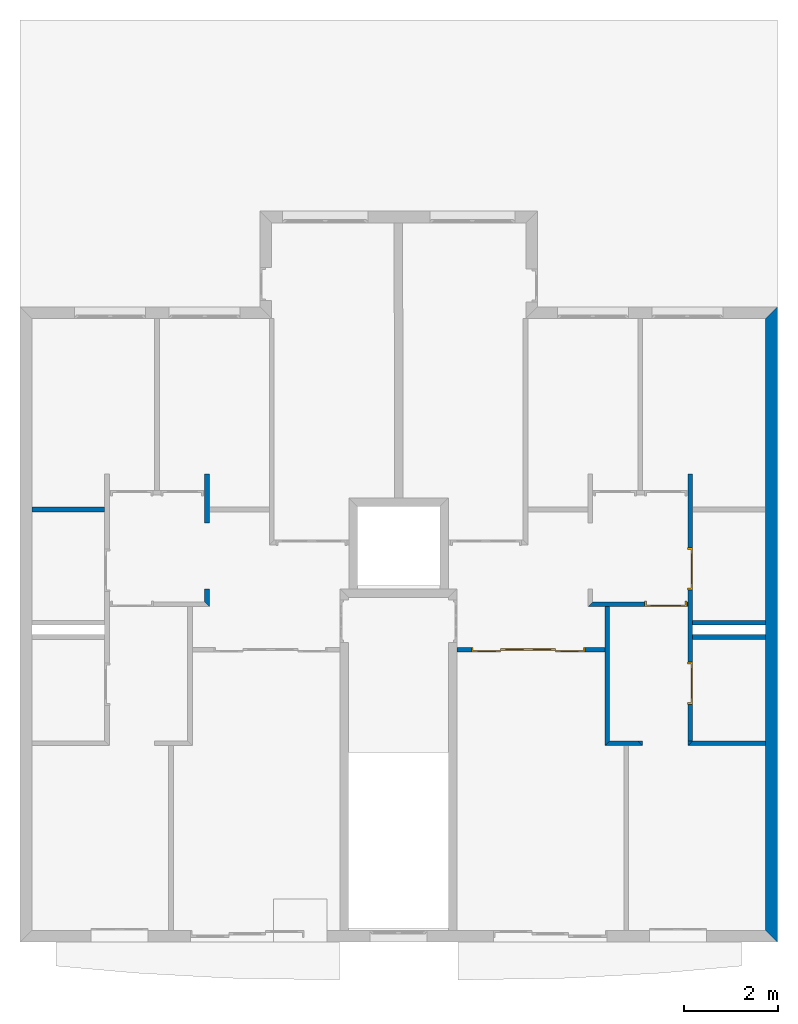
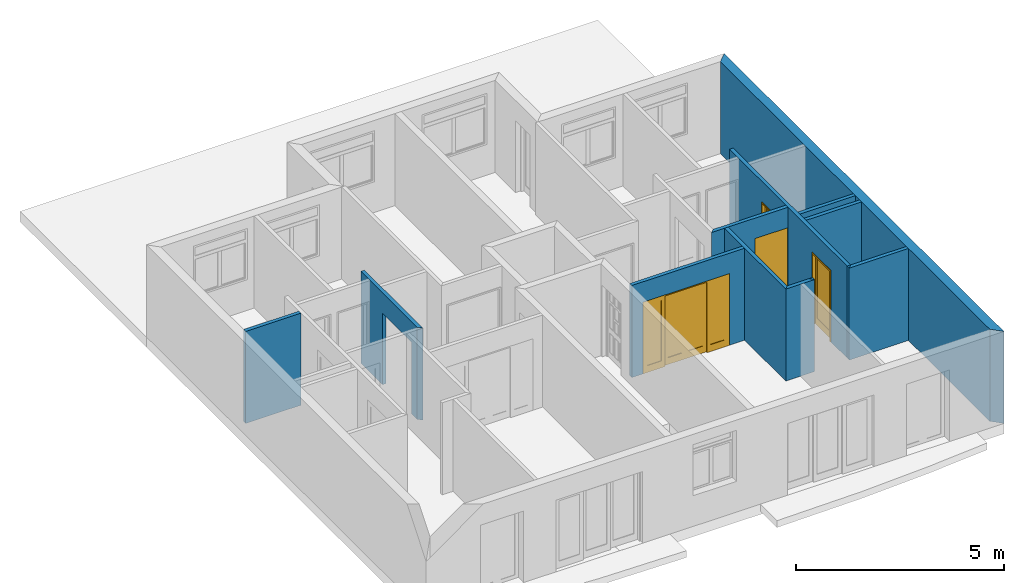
# One storey, part 8 of 12: 13 walls, 4 doors, 5 openings.
"""IFC2X3 building model written with IfcOpenShell, lengths in metres."""

import ifcopenshell
import ifcopenshell.guid

model = None  # the IFC model being written
_history = None  # IfcOwnerHistory: only IFC2X3 demands one
_inside = {}  # id of a spatial element -> (the spatial element, [elements in it])
_under = {}  # id of a project, library or spatial element -> (it, [spatial elements below it])
_declared = {}  # id of a project -> (the project, [libraries it declares])
_typed = {}  # id of a type object -> (the type object, [elements of that type])
_made_of = {}  # id of a material, layer set ... -> (it, [elements and type objects made of it])


def new_model(schema):
    """Start an empty IFC model of exactly this schema.

    Asked for "IFC4X3", IfcOpenShell would pick the latest addendum, in which some entities
    have other attributes; the version numbers below select the first issue.
    IFC2X3 requires an IfcOwnerHistory on every rooted entity: one is made here for all.
    """
    global model, _history
    if schema == "IFC4X3":
        model = ifcopenshell.file(schema_version=(4, 3, 0, 0))
    else:
        model = ifcopenshell.file(schema=schema)
    _inside.clear()
    _under.clear()
    _declared.clear()
    _typed.clear()
    _made_of.clear()
    _history = None
    if model.schema == "IFC2X3":
        org = make("IfcOrganization", Name="unknown")
        user = make(
            "IfcPersonAndOrganization",
            ThePerson=make("IfcPerson", FamilyName="unknown"),
            TheOrganization=org,
        )
        app = make(
            "IfcApplication",
            ApplicationDeveloper=org,
            Version="unknown",
            ApplicationFullName="unknown",
            ApplicationIdentifier="unknown",
        )
        _history = make(
            "IfcOwnerHistory",
            OwningUser=user,
            OwningApplication=app,
            ChangeAction="ADDED",
            CreationDate=0,
        )
    return model


def make(cls, **values):
    """One entity of the class cls with the attributes given. An attribute that is None is left unset."""
    return model.create_entity(
        cls, **{name: value for name, value in values.items() if value is not None}
    )


def entity(cls, *values):
    """Any entity or typed value of the class cls, its attributes in the order of the schema. None: left unset."""
    e = model.create_entity(cls)
    for i, value in enumerate(values):
        if value is not None:
            e[i] = value
    return e


def rooted(cls, **values):
    """An entity with a GlobalId (a new one), such as an element, a storey or a relation."""
    return make(cls, GlobalId=ifcopenshell.guid.new(), OwnerHistory=_history, **values)


def si_unit(unit_type, name, prefix=None):
    """IfcSIUnit, for example si_unit("LENGTHUNIT", "METRE", prefix="MILLI")."""
    return make("IfcSIUnit", UnitType=unit_type, Prefix=prefix, Name=name)


def converted_unit(unit_type, name, factor, base, dimensions=None, offset=None):
    """IfcConversionBasedUnit, such as the inch: factor (a typed value) times the base unit."""
    return make(
        "IfcConversionBasedUnit"
        if offset is None
        else "IfcConversionBasedUnitWithOffset",
        ConversionOffset=offset,
        Dimensions=None
        if dimensions is None
        else entity("IfcDimensionalExponents", *dimensions),
        UnitType=unit_type,
        Name=name,
        ConversionFactor=make(
            "IfcMeasureWithUnit", ValueComponent=factor, UnitComponent=base
        ),
    )


def assignment(units):
    """IfcUnitAssignment: the units of a project."""
    return None if units is None else make("IfcUnitAssignment", Units=units)


def point(xyz):
    """IfcCartesianPoint."""
    return None if xyz is None else make("IfcCartesianPoint", Coordinates=xyz)


def direction(xyz):
    """IfcDirection."""
    return None if xyz is None else make("IfcDirection", DirectionRatios=xyz)


def frame(location, z_axis=None, x_axis=None):
    """IfcAxis2Placement3D, a coordinate frame: its origin and axes. An axis left out is left unset."""
    return make(
        "IfcAxis2Placement3D",
        Location=point(location),
        Axis=direction(z_axis),
        RefDirection=direction(x_axis),
    )


def frame_2d(location, x_axis=None):
    """IfcAxis2Placement2D, a coordinate frame in the plane: its origin and x axis."""
    return make(
        "IfcAxis2Placement2D", Location=point(location), RefDirection=direction(x_axis)
    )


def origin_with_axes():
    """The frame at (0, 0, 0) with the z axis (0, 0, 1) and the x axis (1, 0, 0) written out."""
    return frame((0.0, 0.0, 0.0), z_axis=(0.0, 0.0, 1.0), x_axis=(1.0, 0.0, 0.0))


def place(relative_to, where):
    """IfcLocalPlacement: puts the frame where relative to a parent placement (None: the world)."""
    return make(
        "IfcLocalPlacement", PlacementRelTo=relative_to, RelativePlacement=where
    )


def context(
    kind, dimensions, precision=None, world=None, true_north=None, identifier=None
):
    """IfcGeometricRepresentationContext, for example the 3D "Model" context."""
    return make(
        "IfcGeometricRepresentationContext",
        ContextIdentifier=identifier,
        ContextType=kind,
        CoordinateSpaceDimension=dimensions,
        Precision=precision,
        WorldCoordinateSystem=world,
        TrueNorth=true_north,
    )


def project(units=None, contexts=None):
    """IfcProject with its units and contexts."""
    return rooted(
        "IfcProject",
        Name="project",
        RepresentationContexts=contexts,
        UnitsInContext=assignment(units),
    )


def spatial(cls, under=None, at=None, **own):
    """A site, building, storey or space (cls), placed at a placement, below another one or the project."""
    s = rooted(cls, ObjectPlacement=at, **own)
    if under is not None:
        _under.setdefault(under.id(), (under, []))[1].append(s)
    return s


def polyline(points):
    """IfcPolyline through the points."""
    return make("IfcPolyline", Points=[point(p) for p in points])


def profile(cls, at=None, kind="AREA", **sizes):
    """A parametric profile (cls). Its sizes go by their IFC names, for example OverallWidth=200.0."""
    return make(cls, ProfileType=kind, Position=at, **sizes)


def rectangle(**sizes):
    """IfcRectangleProfileDef."""
    return profile("IfcRectangleProfileDef", **sizes)


def outline(outer, holes=None, kind="AREA"):
    """IfcArbitraryClosedProfileDef: a profile drawn as a closed curve; with holes, ...WithVoids."""
    if holes is None:
        return make("IfcArbitraryClosedProfileDef", ProfileType=kind, OuterCurve=outer)
    return make(
        "IfcArbitraryProfileDefWithVoids",
        ProfileType=kind,
        OuterCurve=outer,
        InnerCurves=holes,
    )


def extrude(swept, where, along, depth):
    """IfcExtrudedAreaSolid: the profile swept, set in the frame where, extruded along a direction by depth."""
    return make(
        "IfcExtrudedAreaSolid",
        SweptArea=swept,
        Position=where,
        ExtrudedDirection=direction(along),
        Depth=depth,
    )


def faces_of(points, faces, orient=None, outer=None):
    """IfcFace entities. A face is a list of loops; a loop is a list of indices into points, from 0.

    orient and outer hold one flag for each loop. By default every Orientation is true, the
    first loop of a face is its IfcFaceOuterBound and the others are IfcFaceBound.
    """
    made = []
    for i, loops in enumerate(faces):
        bounds = []
        for j, loop in enumerate(loops):
            is_outer = j == 0 if outer is None else outer[i][j]
            bounds.append(
                make(
                    "IfcFaceOuterBound" if is_outer else "IfcFaceBound",
                    Bound=make("IfcPolyLoop", Polygon=[points[k] for k in loop]),
                    Orientation=True if orient is None else orient[i][j],
                )
            )
        made.append(make("IfcFace", Bounds=bounds))
    return made


def faceted_brep(points, faces, orient=None, outer=None, voids=None):
    """IfcFacetedBrep: a solid bounded by flat faces; with voids (closed shells), ...WithVoids."""
    shared = [point(p) for p in points]
    hull = make("IfcClosedShell", CfsFaces=faces_of(shared, faces, orient, outer))
    if voids is None:
        return make("IfcFacetedBrep", Outer=hull)
    return make(
        "IfcFacetedBrepWithVoids",
        Outer=hull,
        Voids=[
            make(cls, CfsFaces=faces_of(shared, fs, o, b)) for cls, fs, o, b in voids
        ],
    )


def shape(context_of_items, identifier, shape_type, items):
    """IfcShapeRepresentation: the items that make up one representation, for example the "Body"."""
    return make(
        "IfcShapeRepresentation",
        ContextOfItems=context_of_items,
        RepresentationIdentifier=identifier,
        RepresentationType=shape_type,
        Items=items,
    )


def source(mapping_origin, context_of_items, identifier, shape_type, items):
    """IfcRepresentationMap: a shape defined once, which mapped items show again and again."""
    return make(
        "IfcRepresentationMap",
        MappingOrigin=mapping_origin,
        MappedRepresentation=shape(context_of_items, identifier, shape_type, items),
    )


def transform(
    local_origin,
    x_axis=None,
    y_axis=None,
    z_axis=None,
    scale=None,
    scale2=None,
    scale3=None,
    uniform=True,
):
    """IfcCartesianTransformationOperator3D, or its non-uniform kind. x_axis, y_axis, z_axis: its Axis1, 2, 3."""
    if uniform:
        return make(
            "IfcCartesianTransformationOperator3D",
            Axis1=direction(x_axis),
            Axis2=direction(y_axis),
            LocalOrigin=point(local_origin),
            Scale=scale,
            Axis3=direction(z_axis),
        )
    return make(
        "IfcCartesianTransformationOperator3DnonUniform",
        Axis1=direction(x_axis),
        Axis2=direction(y_axis),
        LocalOrigin=point(local_origin),
        Scale=scale,
        Axis3=direction(z_axis),
        Scale2=scale2,
        Scale3=scale3,
    )


def mapped(mapping_source, mapping_target):
    """IfcMappedItem: shows the shape of a source again, moved by a transform."""
    return make(
        "IfcMappedItem", MappingSource=mapping_source, MappingTarget=mapping_target
    )


def material(Name=None, Category=None):
    """IfcMaterial."""
    return make("IfcMaterial", Name=Name, Category=Category)


def layer(
    of_material, thickness, ventilated=None, Name=None, Category=None, Priority=None
):
    """IfcMaterialLayer: one layer of a wall or slab, of a material (None: an air gap)."""
    return make(
        "IfcMaterialLayer",
        Material=of_material,
        LayerThickness=thickness,
        IsVentilated=ventilated,
        Name=Name,
        Category=Category,
        Priority=Priority,
    )


def layer_set(layers, Name=None):
    """IfcMaterialLayerSet."""
    return make("IfcMaterialLayerSet", MaterialLayers=layers, LayerSetName=Name)


def layer_usage(for_layer_set, set_direction, sense, offset, extent=None):
    """IfcMaterialLayerSetUsage: how a layer set lies in its element."""
    return make(
        "IfcMaterialLayerSetUsage",
        ForLayerSet=for_layer_set,
        LayerSetDirection=set_direction,
        DirectionSense=sense,
        OffsetFromReferenceLine=offset,
        ReferenceExtent=extent,
    )


def made_of(thing, what):
    """Note that an element or type object is made of a material, layer set ...; save() writes the relation."""
    if what is not None:
        _made_of.setdefault(what.id(), (what, []))[1].append(thing)
    return thing


def type_object(cls, material=None, **own):
    """A type object (cls), such as IfcWallType, which elements share."""
    return made_of(rooted(cls, **own), material)


def element(
    cls,
    number,
    at=None,
    inside=None,
    cuts=None,
    type_object=None,
    material=None,
    context=None,
    identifier="Body",
    shape_type=None,
    held_by="IfcProductDefinitionShape",
    body=None,
    shapes=None,
    **own,
):
    """One element of the class cls, such as IfcWall. Its Tag is "e" and its number.

    at: its placement. inside: the storey or other place that contains it. cuts: it is an
    opening in that element (IfcRelVoidsElement). A single representation is given by context,
    identifier, shape_type and body (its items); several are given by shapes. held_by: the class
    of the entity that holds the representations. save() writes the other relations.
    """
    e = rooted(cls, Tag="e%d" % number, ObjectPlacement=at, **own)
    if body is not None:
        shapes = [shape(context, identifier, shape_type, body)]
    if shapes is not None:
        e.Representation = make(held_by, Representations=shapes)
    if inside is not None:
        _inside.setdefault(inside.id(), (inside, []))[1].append(e)
    if cuts is not None:
        rooted(
            "IfcRelVoidsElement", RelatingBuildingElement=cuts, RelatedOpeningElement=e
        )
    if type_object is not None:
        _typed.setdefault(type_object.id(), (type_object, []))[1].append(e)
    return made_of(e, material)


def fill(opening, filler):
    """IfcRelFillsElement: the door or window that sits in an opening."""
    return rooted(
        "IfcRelFillsElement",
        RelatingOpeningElement=opening,
        RelatedBuildingElement=filler,
    )


def aggregate(whole, parts):
    """IfcRelAggregates: a whole, such as a stair, and the parts it consists of."""
    return rooted("IfcRelAggregates", RelatingObject=whole, RelatedObjects=parts)


def save(model, path):
    """Write the relations noted so far, then the file.

    IfcRelAggregates (storeys below a building ...), IfcRelContainedInSpatialStructure (elements
    in a storey), IfcRelDefinesByType, IfcRelAssociatesMaterial and IfcRelDeclares: one each for
    every whole, place, type object, material and project.
    """
    for whole, parts in _under.values():
        aggregate(whole, parts)
    for where, things in _inside.values():
        rooted(
            "IfcRelContainedInSpatialStructure",
            RelatedElements=things,
            RelatingStructure=where,
        )
    for kind, things in _typed.values():
        rooted("IfcRelDefinesByType", RelatedObjects=things, RelatingType=kind)
    for what, things in _made_of.values():
        rooted("IfcRelAssociatesMaterial", RelatedObjects=things, RelatingMaterial=what)
    for by, libraries in _declared.values():
        rooted("IfcRelDeclares", RelatingContext=by, RelatedDefinitions=libraries)
    model.write(path)


model = new_model("IFC2X3")

# Units and contexts
context_of_model = context(None, 3, precision=1e-05, world=origin_with_axes(), true_north=direction((6.123234e-17, 1.0)))
plan_context = context("Plan", 3, precision=1e-05, world=origin_with_axes(), true_north=direction((6.123234e-17, 1.0)))
model_context = context("Model", 3, precision=1e-05, world=origin_with_axes(), true_north=direction((6.123234e-17, 1.0)))
ifc_project = project(units=[si_unit("LENGTHUNIT", "METRE"), si_unit("AREAUNIT", "SQUARE_METRE"), si_unit("VOLUMEUNIT", "CUBIC_METRE"), converted_unit("PLANEANGLEUNIT", "DEGREE", entity("IfcPlaneAngleMeasure", 0.017453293), si_unit("PLANEANGLEUNIT", "RADIAN"), dimensions=[0, 0, 0, 0, 0, 0, 0]), si_unit("SOLIDANGLEUNIT", "STERADIAN"), si_unit("MASSUNIT", "GRAM"), si_unit("TIMEUNIT", "SECOND"), si_unit("THERMODYNAMICTEMPERATUREUNIT", "DEGREE_CELSIUS"), si_unit("LUMINOUSINTENSITYUNIT", "LUMEN")], contexts=[context_of_model, plan_context, model_context])

# Site, building, storey
site_placement = place(None, origin_with_axes())
site = spatial("IfcSite", under=ifc_project, at=site_placement, Name="Por defecto Sitio", CompositionType="ELEMENT")
building_placement = place(site_placement, origin_with_axes())
building = spatial("IfcBuilding", under=site, at=building_placement, Name="Por defecto Edificio", CompositionType="ELEMENT")
storey_placement = place(building_placement, frame((0.0, 0.0, 4.2), z_axis=(0.0, 0.0, 1.0), x_axis=(1.0, 0.0, 0.0)))
storey = spatial("IfcBuildingStorey", under=building, at=storey_placement, Name="Primera", CompositionType="ELEMENT", Elevation=4.2)

# Wall
ifc_material_1 = material(Name="Doble 1:4")
ifc_layer_1 = layer(ifc_material_1, 0.25, ventilated="UNKNOWN")
ifc_layer_set_1 = layer_set([ifc_layer_1], Name="Doble 1:4")
ifc_layer_usage_1 = layer_usage(ifc_layer_set_1, "AXIS2", "NEGATIVE", 0.0)
wall_type_1 = type_object("IfcWallType", Name="Doble 1:4", PredefinedType="NOTDEFINED")
wall_1_placement = place(storey_placement, frame((16.03417, 13.449173, 0.0), z_axis=(0.0, 0.0, 1.0), x_axis=(-2.1396841e-14, -1.0, 0.0)))
element("IfcWallStandardCase", 1, at=wall_1_placement, inside=storey, type_object=wall_type_1, material=ifc_layer_usage_1, Name="Muro-017", context=context_of_model, shape_type="SweptSolid", body=[
    extrude(outline(polyline([(0.25, -0.25), (13.199173, -0.25), (13.449173, 0.0), (0.0, 0.0), (0.25, -0.25)])), origin_with_axes(), (0.0, 0.0, 1.0), 2.7),
])

# Wall, opening
ifc_material_2 = material(Name="Ladrillo común")
ifc_layer_2 = layer(ifc_material_2, 0.1, ventilated="UNKNOWN")
ifc_layer_set_2 = layer_set([ifc_layer_2], Name="Ladrillo común")
ifc_layer_usage_2 = layer_usage(ifc_layer_set_2, "AXIS2", "NEGATIVE", 0.0)
wall_type_2 = type_object("IfcWallType", Name="Ladrillo común", PredefinedType="NOTDEFINED")
wall_2_placement = place(storey_placement, frame((3.9101652, 7.2022014, 0.0), z_axis=(0.0, 0.0, 1.0), x_axis=(0.0, 1.0, 0.0)))
wall_2 = element("IfcWallStandardCase", 2, at=wall_2_placement, inside=storey, type_object=wall_type_2, material=ifc_layer_usage_2, Name="Muro-025", context=context_of_model, shape_type="SweptSolid", body=[
    extrude(outline(polyline([(-0.1, -0.1), (2.7087182, -0.1), (2.7087182, 4.4408921e-16), (0.0, 4.4408921e-16), (-0.1, -0.1)])), origin_with_axes(), (0.0, 0.0, 1.0), 2.7),
])
opening_1_placement = place(wall_2_placement, frame((0.96876743, -0.1, 0.0), z_axis=(0.0, 0.0, 1.0), x_axis=(1.0, 0.0, 0.0)))
element("IfcOpeningElement", 3, at=opening_1_placement, inside=storey, cuts=wall_2, ObjectType="Opening", context=model_context, shape_type="SweptSolid", body=[
    extrude(rectangle(XDim=1.4, YDim=2.1, at=frame_2d((4.4408921e-16, 1.05), x_axis=(-1.0, 0.0))), frame((0.0, 0.0, 0.0), z_axis=(0.0, 1.0, 0.0), x_axis=(-1.0, 0.0, 0.0)), (0.0, 0.0, 1.0), 0.1),
])

# Walls
ifc_layer_usage_3 = layer_usage(ifc_layer_set_2, "AXIS2", "POSITIVE", 0.0)
wall_3_placement = place(storey_placement, frame((1.8901652, 9.2109196, 0.0), z_axis=(0.0, 0.0, 1.0), x_axis=(-1.0, 0.0, 0.0)))
element("IfcWallStandardCase", 4, at=wall_3_placement, inside=storey, type_object=wall_type_2, material=ifc_layer_usage_3, Name="Muro-037", context=context_of_model, shape_type="SweptSolid", body=[
    extrude(outline(polyline([(0.1, 0.0), (1.6401652, 0.0), (1.6401652, 0.1), (0.1, 0.1), (0.1, 0.0)])), origin_with_axes(), (0.0, 0.0, 1.0), 2.7),
])
ifc_layer_usage_4 = layer_usage(ifc_layer_set_2, "AXIS2", "NEGATIVE", 0.0)
wall_4_placement = place(storey_placement, frame((16.03417, 4.1588613, 0.0), z_axis=(0.0, 0.0, 1.0), x_axis=(-1.0, 0.0, 0.0)))
element("IfcWallStandardCase", 5, at=wall_4_placement, inside=storey, type_object=wall_type_2, material=ifc_layer_usage_4, Name="Muro-020", context=context_of_model, shape_type="SweptSolid", body=[
    extrude(outline(polyline([(0.25, -0.1), (1.7943351, -0.1), (1.8943351, 0.0), (0.25, 0.0), (0.25, -0.1)])), origin_with_axes(), (0.0, 0.0, 1.0), 2.7),
])
ifc_layer_usage_5 = layer_usage(ifc_layer_set_2, "AXIS2", "NEGATIVE", 0.0)
wall_5_placement = place(storey_placement, frame((12.379835, 4.1588613, 0.0), z_axis=(0.0, 0.0, 1.0), x_axis=(0.0, 1.0, 0.0)))
element("IfcWallStandardCase", 6, at=wall_5_placement, inside=storey, type_object=wall_type_2, material=ifc_layer_usage_5, Name="Muro-021", context=context_of_model, shape_type="SweptSolid", body=[
    extrude(outline(polyline([(0.1, -0.1), (2.9433401, -0.1), (2.9433401, 0.0), (0.0, 0.0), (0.1, -0.1)])), origin_with_axes(), (0.0, 0.0, 1.0), 2.7),
])
ifc_layer_usage_6 = layer_usage(ifc_layer_set_2, "AXIS2", "POSITIVE", 0.0)
wall_6_placement = place(storey_placement, frame((13.179835, 4.1588613, 0.0), z_axis=(0.0, 0.0, 1.0), x_axis=(0.0, 1.0, 0.0)))
element("IfcWallStandardCase", 7, at=wall_6_placement, inside=storey, type_object=wall_type_2, material=ifc_layer_usage_6, Name="Muro-023", context=context_of_model, shape_type="SweptSolid", body=[
    extrude(outline(polyline([(0.0, 0.0), (0.1, 0.0), (0.1, 0.1), (0.1, 0.1), (0.0, 0.0)])), origin_with_axes(), (0.0, 0.0, 1.0), 2.7),
])

# Wall, opening, door
ifc_layer_usage_7 = layer_usage(ifc_layer_set_2, "AXIS2", "POSITIVE", 0.0)
wall_7_placement = place(storey_placement, frame((14.139835, 7.2022014, 0.0), z_axis=(0.0, 0.0, 1.0), x_axis=(-1.0, 0.0, 0.0)))
wall_7 = element("IfcWallStandardCase", 8, at=wall_7_placement, inside=storey, type_object=wall_type_2, material=ifc_layer_usage_7, Name="Muro-024", context=context_of_model, shape_type="SweptSolid", body=[
    extrude(outline(polyline([(0.0, 0.0), (2.02, 0.0), (2.12, 0.1), (0.0, 0.1), (0.0, 0.0)])), origin_with_axes(), (0.0, 0.0, 1.0), 2.7),
])
opening_2_placement = place(wall_7_placement, frame((0.46942735, 0.0, 0.0), z_axis=(0.0, 0.0, 1.0), x_axis=(1.0, 0.0, 0.0)))
opening_2 = element("IfcOpeningElement", 9, at=opening_2_placement, cuts=wall_7, ObjectType="Opening", context=model_context, shape_type="SweptSolid", body=[
    extrude(rectangle(XDim=0.9, YDim=2.1, at=frame_2d((0.0, 1.05), x_axis=(-1.0, 0.0))), frame((0.0, 0.0, 0.0), z_axis=(0.0, 1.0, 0.0), x_axis=(-1.0, 0.0, 0.0)), (0.0, 0.0, 1.0), 0.1),
])
door_style_1 = type_object("IfcDoorStyle", Name="P1 12", ConstructionType="NOTDEFINED", OperationType="SINGLE_SWING_RIGHT", ParameterTakesPrecedence=False, Sizeable=False)
shared_shape_1 = source(origin_with_axes(), model_context, "Body", "Brep", [
    faceted_brep([(0.04, 0.075, -2.4492936e-18), (0.04, 0.075, 2.06), (0.04, 0.0, 2.06), (0.04, 0.0, -7.0417191e-18), (0.028, 0.075, 2.06), (0.028, 0.075, -2.4492936e-18), (0.028, 0.115, 2.06), (0.0, 0.115, 2.06), (0.0, 0.0, 2.06), (0.0, 0.0, 0.0), (0.0, 0.115, 3.3744595e-33), (0.028, 0.115, 3.2707143e-33)], [[[0, 1, 2, 3]], [[4, 1, 0, 5]], [[4, 6, 7, 8, 2, 1]], [[9, 3, 2, 8]], [[5, 0, 3, 9, 10, 11]], [[6, 4, 5, 11]], [[6, 11, 10, 7]], [[8, 7, 10, 9]]]),
    faceted_brep([(0.872, 0.075, 2.06), (0.86, 0.075, 2.06), (0.86, 0.0, 2.06), (0.9, 0.0, 2.06), (0.9, 0.115, 2.06), (0.872, 0.115, 2.06), (0.872, 0.075, -2.4492936e-18), (0.86, 0.075, -2.4492936e-18), (0.86, 0.0, -7.0417191e-18), (0.9, 0.0, -7.0417191e-18), (0.9, 0.115, -3.3744595e-33), (0.872, 0.115, -3.1644931e-33)], [[[0, 1, 2, 3, 4, 5]], [[1, 0, 6, 7]], [[1, 7, 8, 2]], [[8, 9, 3, 2]], [[9, 10, 4, 3]], [[11, 5, 4, 10]], [[0, 5, 11, 6]], [[6, 11, 10, 9, 8, 7]]]),
    faceted_brep([(0.028, 0.115, 2.072), (0.028, 0.115, 2.06), (0.0, 0.115, 2.06), (0.0, 0.115, 2.1), (0.9, 0.115, 2.1), (0.9, 0.115, 2.06), (0.872, 0.115, 2.06), (0.872, 0.115, 2.072), (0.028, 0.075, 2.072), (0.028, 0.075, 2.06), (0.04, 0.075, 2.06), (0.04, 0.0, 2.06), (0.0, 0.0, 2.06), (0.0, 0.0, 2.1), (0.9, 0.0, 2.1), (0.9, 0.0, 2.06), (0.872, 0.075, 2.06), (0.86, 0.0, 2.06), (0.86, 0.075, 2.06), (0.872, 0.075, 2.072)], [[[0, 1, 2, 3, 4, 5, 6, 7]], [[1, 0, 8, 9]], [[9, 10, 11, 12, 2, 1]], [[13, 3, 2, 12]], [[14, 4, 3, 13]], [[15, 5, 4, 14]], [[16, 6, 5, 15, 17, 18]], [[7, 6, 16, 19]], [[0, 7, 19, 8]], [[16, 18, 10, 9, 8, 19]], [[10, 18, 17, 11]], [[14, 13, 12, 11, 17, 15]]]),
    faceted_brep([(0.872, 0.115, 0.2), (0.872, 0.075, 0.2), (0.772, 0.075, 0.2), (0.772, 0.115, 0.2), (0.872, 0.115, 1.972), (0.872, 0.075, 1.972), (0.772, 0.075, 1.972), (0.772, 0.115, 1.972)], [[[0, 1, 2, 3]], [[4, 5, 1, 0]], [[1, 5, 6, 2]], [[3, 2, 6, 7]], [[0, 3, 7, 4]], [[7, 6, 5, 4]]]),
    faceted_brep([(0.028, 0.115, 0.2), (0.028, 0.075, 0.2), (0.028, 0.075, 1.972), (0.028, 0.115, 1.972), (0.128, 0.115, 0.2), (0.128, 0.075, 0.2), (0.128, 0.075, 1.972), (0.128, 0.115, 1.972)], [[[0, 1, 2, 3]], [[4, 5, 1, 0]], [[1, 5, 6, 2]], [[3, 2, 6, 7]], [[0, 3, 7, 4]], [[7, 6, 5, 4]]]),
    faceted_brep([(0.872, 0.115, -3.1644931e-33), (0.872, 0.075, -2.4492936e-18), (0.028, 0.075, -2.4492936e-18), (0.028, 0.115, 3.1644931e-33), (0.872, 0.115, 0.2), (0.872, 0.075, 0.2), (0.772, 0.075, 0.2), (0.128, 0.075, 0.2), (0.028, 0.075, 0.2), (0.028, 0.115, 0.2), (0.128, 0.115, 0.2), (0.772, 0.115, 0.2)], [[[0, 1, 2, 3]], [[4, 5, 1, 0]], [[1, 5, 6, 7, 8, 2]], [[3, 2, 8, 9]], [[0, 3, 9, 10, 11, 4]], [[11, 6, 5, 4]], [[10, 7, 6, 11]], [[9, 8, 7, 10]]]),
    faceted_brep([(0.872, 0.115, 2.072), (0.872, 0.075, 2.072), (0.872, 0.075, 1.972), (0.872, 0.115, 1.972), (0.028, 0.115, 2.072), (0.028, 0.075, 2.072), (0.028, 0.075, 1.972), (0.128, 0.075, 1.972), (0.772, 0.075, 1.972), (0.772, 0.115, 1.972), (0.128, 0.115, 1.972), (0.028, 0.115, 1.972)], [[[0, 1, 2, 3]], [[4, 5, 1, 0]], [[1, 5, 6, 7, 8, 2]], [[3, 2, 8, 9]], [[0, 3, 9, 10, 11, 4]], [[11, 6, 5, 4]], [[10, 7, 6, 11]], [[9, 8, 7, 10]]]),
    faceted_brep([(0.772, 0.101, 0.2), (0.772, 0.089, 0.2), (0.128, 0.089, 0.2), (0.128, 0.101, 0.2), (0.772, 0.101, 1.972), (0.772, 0.089, 1.972), (0.128, 0.089, 1.972), (0.128, 0.101, 1.972)], [[[0, 1, 2, 3]], [[4, 5, 1, 0]], [[1, 5, 6, 2]], [[3, 2, 6, 7]], [[0, 3, 7, 4]], [[7, 6, 5, 4]]]),
])
door_1_placement = place(opening_2_placement, frame((-0.45, -0.015, 0.0), z_axis=(0.0, 0.0, 1.0), x_axis=(1.0, 0.0, 0.0)))
door_1 = element("IfcDoor", 10, at=door_1_placement, inside=storey, type_object=door_style_1, Name="P18", OverallHeight=2.1, OverallWidth=0.9, context=model_context, shape_type="MappedRepresentation", body=[
    mapped(shared_shape_1, transform((0.0, 0.0, 0.0), scale=1.0)),
])
fill(opening_2, door_1)

# Wall, openings, doors
ifc_layer_usage_8 = layer_usage(ifc_layer_set_2, "AXIS2", "POSITIVE", 0.0)
wall_8_placement = place(storey_placement, frame((14.139835, 9.9109196, 0.0), z_axis=(0.0, 0.0, 1.0), x_axis=(0.0, -1.0, 0.0)))
wall_8 = element("IfcWallStandardCase", 11, at=wall_8_placement, inside=storey, type_object=wall_type_2, material=ifc_layer_usage_8, Name="Muro-034", context=context_of_model, shape_type="SweptSolid", body=[
    extrude(outline(polyline([(0.0, 0.0), (5.6520584, 0.0), (5.6520584, 0.1), (0.0, 0.1), (0.0, 0.0)])), origin_with_axes(), (0.0, 0.0, 1.0), 2.7),
])
opening_3_placement = place(wall_8_placement, frame((4.4313728, 0.0, 0.0), z_axis=(0.0, 0.0, 1.0), x_axis=(1.0, 0.0, 0.0)))
opening_3 = element("IfcOpeningElement", 12, at=opening_3_placement, cuts=wall_8, ObjectType="Opening", context=model_context, shape_type="SweptSolid", body=[
    extrude(rectangle(XDim=0.9, YDim=2.1, at=frame_2d((0.0, 1.05), x_axis=(-1.0, 0.0))), frame((0.0, 0.0, 0.0), z_axis=(0.0, 1.0, 0.0), x_axis=(-1.0, 0.0, 0.0)), (0.0, 0.0, 1.0), 0.1),
])
opening_4_placement = place(wall_8_placement, frame((2.0054523, 0.0, 0.0), z_axis=(0.0, 0.0, 1.0), x_axis=(1.0, 0.0, 0.0)))
opening_4 = element("IfcOpeningElement", 13, at=opening_4_placement, cuts=wall_8, ObjectType="Opening", context=model_context, shape_type="SweptSolid", body=[
    extrude(rectangle(XDim=0.9, YDim=2.1, at=frame_2d((-4.4408921e-16, 1.05), x_axis=(-1.0, 0.0))), frame((0.0, 0.0, 0.0), z_axis=(0.0, 1.0, 0.0), x_axis=(-1.0, 0.0, 0.0)), (0.0, 0.0, 1.0), 0.1),
])
door_style_2 = type_object("IfcDoorStyle", Name="P1 12", ConstructionType="NOTDEFINED", OperationType="SINGLE_SWING_RIGHT", ParameterTakesPrecedence=False, Sizeable=False)
door_2_placement = place(opening_3_placement, frame((-0.45, -0.015, 0.0), z_axis=(0.0, 0.0, 1.0), x_axis=(1.0, 0.0, 0.0)))
door_2 = element("IfcDoor", 14, at=door_2_placement, inside=storey, type_object=door_style_2, Name="P19", OverallHeight=2.1, OverallWidth=0.9, context=model_context, shape_type="MappedRepresentation", body=[
    mapped(shared_shape_1, transform((0.0, 0.0, 0.0), scale=1.0)),
])
fill(opening_3, door_2)
door_style_3 = type_object("IfcDoorStyle", Name="P1 12", ConstructionType="NOTDEFINED", OperationType="SINGLE_SWING_LEFT", ParameterTakesPrecedence=False, Sizeable=False)
shared_shape_2 = source(origin_with_axes(), model_context, "Body", "Brep", [
    faceted_brep([(0.86, 0.075, 0.0), (0.86, 0.0, 0.0), (0.86, 0.0, 2.06), (0.86, 0.075, 2.06), (0.872, 0.075, 0.0), (0.872, 0.115, 0.0), (0.9, 0.115, 0.0), (0.9, 0.0, 0.0), (0.9, 0.0, 2.06), (0.872, 0.075, 2.06), (0.9, 0.115, 2.06), (0.872, 0.115, 2.06)], [[[0, 1, 2, 3]], [[4, 5, 6, 7, 1, 0]], [[7, 8, 2, 1]], [[9, 3, 2, 8, 10, 11]], [[9, 4, 0, 3]], [[11, 5, 4, 9]], [[11, 10, 6, 5]], [[8, 7, 6, 10]]]),
    faceted_brep([(0.028, 0.075, 2.06), (0.028, 0.115, 2.06), (-4.4408921e-16, 0.115, 2.06), (-4.4408921e-16, 0.0, 2.06), (0.04, 0.0, 2.06), (0.04, 0.075, 2.06), (0.028, 0.075, 0.0), (0.028, 0.115, 0.0), (-4.4408921e-16, 0.115, 0.0), (0.0, 0.0, 0.0), (0.04, 0.0, 0.0), (0.04, 0.075, 0.0)], [[[0, 1, 2, 3, 4, 5]], [[0, 6, 7, 1]], [[7, 8, 2, 1]], [[9, 3, 2, 8]], [[10, 4, 3, 9]], [[5, 4, 10, 11]], [[5, 11, 6, 0]], [[6, 11, 10, 9, 8, 7]]]),
    faceted_brep([(0.872, 0.115, 2.072), (0.028, 0.115, 2.072), (0.028, 0.115, 2.06), (-4.4408921e-16, 0.115, 2.06), (-4.4408921e-16, 0.115, 2.1), (0.9, 0.115, 2.1), (0.9, 0.115, 2.06), (0.872, 0.115, 2.06), (0.872, 0.075, 2.072), (0.028, 0.075, 2.072), (0.028, 0.075, 2.06), (0.04, 0.075, 2.06), (0.04, 0.0, 2.06), (-4.4408921e-16, 0.0, 2.06), (-4.4408921e-16, 0.0, 2.1), (0.9, 0.0, 2.1), (0.9, 0.0, 2.06), (0.872, 0.075, 2.06), (0.86, 0.0, 2.06), (0.86, 0.075, 2.06)], [[[0, 1, 2, 3, 4, 5, 6, 7]], [[0, 8, 9, 1]], [[1, 9, 10, 2]], [[10, 11, 12, 13, 3, 2]], [[13, 14, 4, 3]], [[14, 15, 5, 4]], [[15, 16, 6, 5]], [[17, 7, 6, 16, 18, 19]], [[7, 17, 8, 0]], [[10, 9, 8, 17, 19, 11]], [[19, 18, 12, 11]], [[14, 13, 12, 18, 16, 15]]]),
    faceted_brep([(0.028, 0.115, 0.2), (0.128, 0.115, 0.2), (0.128, 0.075, 0.2), (0.028, 0.075, 0.2), (0.028, 0.115, 1.972), (0.128, 0.115, 1.972), (0.128, 0.075, 1.972), (0.028, 0.075, 1.972)], [[[0, 1, 2, 3]], [[0, 4, 5, 1]], [[1, 5, 6, 2]], [[3, 2, 6, 7]], [[4, 0, 3, 7]], [[5, 4, 7, 6]]]),
    faceted_brep([(0.872, 0.115, 0.2), (0.872, 0.115, 1.972), (0.872, 0.075, 1.972), (0.872, 0.075, 0.2), (0.772, 0.115, 0.2), (0.772, 0.115, 1.972), (0.772, 0.075, 1.972), (0.772, 0.075, 0.2)], [[[0, 1, 2, 3]], [[0, 4, 5, 1]], [[1, 5, 6, 2]], [[3, 2, 6, 7]], [[4, 0, 3, 7]], [[5, 4, 7, 6]]]),
    faceted_brep([(0.028, 0.115, 0.0), (0.872, 0.115, 0.0), (0.872, 0.075, 0.0), (0.028, 0.075, 0.0), (0.028, 0.115, 0.2), (0.128, 0.115, 0.2), (0.772, 0.115, 0.2), (0.872, 0.115, 0.2), (0.872, 0.075, 0.2), (0.772, 0.075, 0.2), (0.128, 0.075, 0.2), (0.028, 0.075, 0.2)], [[[0, 1, 2, 3]], [[0, 4, 5, 6, 7, 1]], [[1, 7, 8, 2]], [[3, 2, 8, 9, 10, 11]], [[4, 0, 3, 11]], [[5, 4, 11, 10]], [[6, 5, 10, 9]], [[7, 6, 9, 8]]]),
    faceted_brep([(0.028, 0.115, 2.072), (0.028, 0.115, 1.972), (0.028, 0.075, 1.972), (0.028, 0.075, 2.072), (0.872, 0.115, 2.072), (0.872, 0.115, 1.972), (0.772, 0.115, 1.972), (0.128, 0.115, 1.972), (0.128, 0.075, 1.972), (0.772, 0.075, 1.972), (0.872, 0.075, 1.972), (0.872, 0.075, 2.072)], [[[0, 1, 2, 3]], [[0, 4, 5, 6, 7, 1]], [[1, 7, 8, 2]], [[3, 2, 8, 9, 10, 11]], [[4, 0, 3, 11]], [[5, 4, 11, 10]], [[6, 5, 10, 9]], [[7, 6, 9, 8]]]),
    faceted_brep([(0.128, 0.101, 0.2), (0.772, 0.101, 0.2), (0.772, 0.089, 0.2), (0.128, 0.089, 0.2), (0.128, 0.101, 1.972), (0.772, 0.101, 1.972), (0.772, 0.089, 1.972), (0.128, 0.089, 1.972)], [[[0, 1, 2, 3]], [[0, 4, 5, 1]], [[1, 5, 6, 2]], [[3, 2, 6, 7]], [[4, 0, 3, 7]], [[5, 4, 7, 6]]]),
])
door_3_placement = place(opening_4_placement, frame((-0.45, -0.015, 0.0), z_axis=(0.0, 0.0, 1.0), x_axis=(1.0, 0.0, 0.0)))
door_3 = element("IfcDoor", 15, at=door_3_placement, inside=storey, type_object=door_style_3, Name="P20", OverallHeight=2.1, OverallWidth=0.9, context=model_context, shape_type="MappedRepresentation", body=[
    mapped(shared_shape_2, transform((0.0, 0.0, 0.0), scale=1.0)),
])
fill(opening_4, door_3)

# Walls
ifc_layer_usage_9 = layer_usage(ifc_layer_set_2, "AXIS2", "NEGATIVE", 0.0)
wall_9_placement = place(storey_placement, frame((14.139835, 6.8112172, 0.0), z_axis=(0.0, 0.0, 1.0), x_axis=(1.0, 0.0, 0.0)))
element("IfcWallStandardCase", 16, at=wall_9_placement, inside=storey, type_object=wall_type_2, material=ifc_layer_usage_9, Name="Muro-035", context=context_of_model, shape_type="SweptSolid", body=[
    extrude(outline(polyline([(0.1, -0.1), (1.6443351, -0.1), (1.6443351, 0.0), (0.1, 0.0), (0.1, -0.1)])), origin_with_axes(), (0.0, 0.0, 1.0), 2.7),
])
ifc_layer_usage_10 = layer_usage(ifc_layer_set_2, "AXIS2", "POSITIVE", 0.0)
wall_10_placement = place(storey_placement, frame((14.139835, 6.4112172, 0.0), z_axis=(0.0, 0.0, 1.0), x_axis=(1.0, 0.0, 0.0)))
element("IfcWallStandardCase", 17, at=wall_10_placement, inside=storey, type_object=wall_type_2, material=ifc_layer_usage_10, Name="Muro-036", context=context_of_model, shape_type="SweptSolid", body=[
    extrude(outline(polyline([(0.1, 0.0), (1.6443351, 0.0), (1.6443351, 0.1), (0.1, 0.1), (0.1, 0.0)])), origin_with_axes(), (0.0, 0.0, 1.0), 2.7),
])

# Wall, opening, door
ifc_layer_usage_11 = layer_usage(ifc_layer_set_2, "AXIS2", "NEGATIVE", 0.05)
wall_11_placement = place(storey_placement, frame((12.379835, 6.1881579, 0.0), z_axis=(0.0, 0.0, 1.0), x_axis=(-1.0, 0.0, 0.0)))
wall_11 = element("IfcWallStandardCase", 18, at=wall_11_placement, inside=storey, type_object=wall_type_2, material=ifc_layer_usage_11, Name="Muro-028", context=context_of_model, shape_type="SweptSolid", body=[
    extrude(outline(polyline([(0.0, -0.05), (3.1306649, -0.05), (3.1306649, 0.05), (0.0, 0.05), (0.0, -0.05)])), origin_with_axes(), (0.0, 0.0, 1.0), 2.7),
])
opening_5_placement = place(wall_11_placement, frame((1.6239004, -0.05, 0.0), z_axis=(0.0, 0.0, 1.0), x_axis=(1.0, 0.0, 0.0)))
opening_5 = element("IfcOpeningElement", 19, at=opening_5_placement, cuts=wall_11, ObjectType="Opening", context=model_context, shape_type="SweptSolid", body=[
    extrude(rectangle(XDim=2.4, YDim=2.1, at=frame_2d((0.0, 1.05), x_axis=(1.0, 0.0))), frame((0.0, 0.0, 0.0), z_axis=(0.0, 1.0, 0.0), x_axis=(-1.0, 0.0, 0.0)), (0.0, 0.0, 1.0), 0.1),
])
door_style_4 = type_object("IfcDoorStyle", Name="P4 Corredera 12", ConstructionType="NOTDEFINED", OperationType="DOUBLE_DOOR_SLIDING", ParameterTakesPrecedence=False, Sizeable=False)
shared_shape_3 = source(origin_with_axes(), model_context, "Body", "Brep", [
    faceted_brep([(2.368, 0.1, 0.0), (2.368, -8.8817842e-16, 0.0), (2.368, 0.0, 2.068), (2.368, 0.1, 2.068), (2.4, 0.1, 0.0), (2.4, -8.8817842e-16, 0.0), (2.4, 0.0, 2.068), (2.4, 0.1, 2.068)], [[[0, 1, 2, 3]], [[4, 5, 1, 0]], [[1, 5, 6, 2]], [[3, 2, 6, 7]], [[0, 3, 7, 4]], [[7, 6, 5, 4]]]),
    faceted_brep([(0.0, 0.1, 0.0), (0.0, 0.0, 0.0), (0.0, 0.0, 2.068), (0.0, 0.1, 2.068), (0.032, 0.1, 0.0), (0.032, 0.0, 0.0), (0.032, 0.0, 2.068), (0.032, 0.1, 2.068)], [[[0, 1, 2, 3]], [[4, 5, 1, 0]], [[1, 5, 6, 2]], [[3, 2, 6, 7]], [[0, 3, 7, 4]], [[7, 6, 5, 4]]]),
    faceted_brep([(2.4, 0.1, 2.1), (2.4, 0.0, 2.1), (2.4, 0.0, 2.068), (2.4, 0.1, 2.068), (0.0, 0.1, 2.1), (0.0, 0.0, 2.1), (0.0, 0.0, 2.068), (0.032, 0.0, 2.068), (2.368, 0.0, 2.068), (2.368, 0.1, 2.068), (0.032, 0.1, 2.068), (0.0, 0.1, 2.068)], [[[0, 1, 2, 3]], [[4, 5, 1, 0]], [[1, 5, 6, 7, 8, 2]], [[3, 2, 8, 9]], [[0, 3, 9, 10, 11, 4]], [[11, 6, 5, 4]], [[10, 7, 6, 11]], [[9, 8, 7, 10]]]),
    faceted_brep([(0.032, 0.1, 0.2), (0.132, 0.1, 0.2), (0.132, 0.06, 0.2), (0.032, 0.06, 0.2), (0.032, 0.1, 1.968), (0.132, 0.1, 1.968), (0.132, 0.06, 1.968), (0.032, 0.06, 1.968)], [[[0, 1, 2, 3]], [[0, 4, 5, 1]], [[1, 5, 6, 2]], [[3, 2, 6, 7]], [[4, 0, 3, 7]], [[5, 4, 7, 6]]]),
    faceted_brep([(0.616, 0.1, 0.2), (0.616, 0.1, 1.968), (0.616, 0.06, 1.968), (0.616, 0.06, 0.2), (0.516, 0.1, 0.2), (0.516, 0.1, 1.968), (0.516, 0.06, 1.968), (0.516, 0.06, 0.2)], [[[0, 1, 2, 3]], [[0, 4, 5, 1]], [[1, 5, 6, 2]], [[3, 2, 6, 7]], [[4, 0, 3, 7]], [[5, 4, 7, 6]]]),
    faceted_brep([(0.032, 0.1, 0.0), (0.616, 0.1, 0.0), (0.616, 0.06, 0.0), (0.032, 0.06, 0.0), (0.032, 0.1, 0.2), (0.132, 0.1, 0.2), (0.516, 0.1, 0.2), (0.616, 0.1, 0.2), (0.616, 0.06, 0.2), (0.516, 0.06, 0.2), (0.132, 0.06, 0.2), (0.032, 0.06, 0.2)], [[[0, 1, 2, 3]], [[0, 4, 5, 6, 7, 1]], [[1, 7, 8, 2]], [[3, 2, 8, 9, 10, 11]], [[4, 0, 3, 11]], [[5, 4, 11, 10]], [[6, 5, 10, 9]], [[7, 6, 9, 8]]]),
    faceted_brep([(0.032, 0.1, 2.068), (0.032, 0.1, 1.968), (0.032, 0.06, 1.968), (0.032, 0.06, 2.068), (0.616, 0.1, 2.068), (0.616, 0.1, 1.968), (0.516, 0.1, 1.968), (0.132, 0.1, 1.968), (0.132, 0.06, 1.968), (0.516, 0.06, 1.968), (0.616, 0.06, 1.968), (0.616, 0.06, 2.068)], [[[0, 1, 2, 3]], [[0, 4, 5, 6, 7, 1]], [[1, 7, 8, 2]], [[3, 2, 8, 9, 10, 11]], [[4, 0, 3, 11]], [[5, 4, 11, 10]], [[6, 5, 10, 9]], [[7, 6, 9, 8]]]),
    faceted_brep([(0.132, 0.086, 0.2), (0.516, 0.086, 0.2), (0.516, 0.074, 0.2), (0.132, 0.074, 0.2), (0.132, 0.086, 1.968), (0.516, 0.086, 1.968), (0.516, 0.074, 1.968), (0.132, 0.074, 1.968)], [[[0, 1, 2, 3]], [[0, 4, 5, 1]], [[1, 5, 6, 2]], [[3, 2, 6, 7]], [[4, 0, 3, 7]], [[5, 4, 7, 6]]]),
    faceted_brep([(2.368, 0.1, 0.2), (2.368, 0.06, 0.2), (2.268, 0.06, 0.2), (2.268, 0.1, 0.2), (2.368, 0.1, 1.968), (2.368, 0.06, 1.968), (2.268, 0.06, 1.968), (2.268, 0.1, 1.968)], [[[0, 1, 2, 3]], [[4, 5, 1, 0]], [[1, 5, 6, 2]], [[3, 2, 6, 7]], [[0, 3, 7, 4]], [[7, 6, 5, 4]]]),
    faceted_brep([(1.784, 0.1, 0.2), (1.784, 0.06, 0.2), (1.784, 0.06, 1.968), (1.784, 0.1, 1.968), (1.884, 0.1, 0.2), (1.884, 0.06, 0.2), (1.884, 0.06, 1.968), (1.884, 0.1, 1.968)], [[[0, 1, 2, 3]], [[4, 5, 1, 0]], [[1, 5, 6, 2]], [[3, 2, 6, 7]], [[0, 3, 7, 4]], [[7, 6, 5, 4]]]),
    faceted_brep([(2.368, 0.1, 0.0), (2.368, 0.06, 0.0), (1.784, 0.06, 0.0), (1.784, 0.1, 0.0), (2.368, 0.1, 0.2), (2.368, 0.06, 0.2), (2.268, 0.06, 0.2), (1.884, 0.06, 0.2), (1.784, 0.06, 0.2), (1.784, 0.1, 0.2), (1.884, 0.1, 0.2), (2.268, 0.1, 0.2)], [[[0, 1, 2, 3]], [[4, 5, 1, 0]], [[1, 5, 6, 7, 8, 2]], [[3, 2, 8, 9]], [[0, 3, 9, 10, 11, 4]], [[11, 6, 5, 4]], [[10, 7, 6, 11]], [[9, 8, 7, 10]]]),
    faceted_brep([(2.368, 0.1, 2.068), (2.368, 0.06, 2.068), (2.368, 0.06, 1.968), (2.368, 0.1, 1.968), (1.784, 0.1, 2.068), (1.784, 0.06, 2.068), (1.784, 0.06, 1.968), (1.884, 0.06, 1.968), (2.268, 0.06, 1.968), (2.268, 0.1, 1.968), (1.884, 0.1, 1.968), (1.784, 0.1, 1.968)], [[[0, 1, 2, 3]], [[4, 5, 1, 0]], [[1, 5, 6, 7, 8, 2]], [[3, 2, 8, 9]], [[0, 3, 9, 10, 11, 4]], [[11, 6, 5, 4]], [[10, 7, 6, 11]], [[9, 8, 7, 10]]]),
    faceted_brep([(2.268, 0.086, 0.2), (2.268, 0.074, 0.2), (1.884, 0.074, 0.2), (1.884, 0.086, 0.2), (2.268, 0.086, 1.968), (2.268, 0.074, 1.968), (1.884, 0.074, 1.968), (1.884, 0.086, 1.968)], [[[0, 1, 2, 3]], [[4, 5, 1, 0]], [[1, 5, 6, 2]], [[3, 2, 6, 7]], [[0, 3, 7, 4]], [[7, 6, 5, 4]]]),
    faceted_brep([(0.616, 0.06, 0.2), (0.716, 0.06, 0.2), (0.716, 0.02, 0.2), (0.616, 0.02, 0.2), (0.616, 0.06, 1.968), (0.716, 0.06, 1.968), (0.716, 0.02, 1.968), (0.616, 0.02, 1.968)], [[[0, 1, 2, 3]], [[0, 4, 5, 1]], [[1, 5, 6, 2]], [[3, 2, 6, 7]], [[4, 0, 3, 7]], [[5, 4, 7, 6]]]),
    faceted_brep([(1.2, 0.06, 0.2), (1.2, 0.06, 1.968), (1.2, 0.02, 1.968), (1.2, 0.02, 0.2), (1.1, 0.06, 0.2), (1.1, 0.06, 1.968), (1.1, 0.02, 1.968), (1.1, 0.02, 0.2)], [[[0, 1, 2, 3]], [[0, 4, 5, 1]], [[1, 5, 6, 2]], [[3, 2, 6, 7]], [[4, 0, 3, 7]], [[5, 4, 7, 6]]]),
    faceted_brep([(0.616, 0.06, 0.0), (1.2, 0.06, 0.0), (1.2, 0.02, 0.0), (0.616, 0.02, 0.0), (0.616, 0.06, 0.2), (0.716, 0.06, 0.2), (1.1, 0.06, 0.2), (1.2, 0.06, 0.2), (1.2, 0.02, 0.2), (1.1, 0.02, 0.2), (0.716, 0.02, 0.2), (0.616, 0.02, 0.2)], [[[0, 1, 2, 3]], [[0, 4, 5, 6, 7, 1]], [[1, 7, 8, 2]], [[3, 2, 8, 9, 10, 11]], [[4, 0, 3, 11]], [[5, 4, 11, 10]], [[6, 5, 10, 9]], [[7, 6, 9, 8]]]),
    faceted_brep([(0.616, 0.06, 2.068), (0.616, 0.06, 1.968), (0.616, 0.02, 1.968), (0.616, 0.02, 2.068), (1.2, 0.06, 2.068), (1.2, 0.06, 1.968), (1.1, 0.06, 1.968), (0.716, 0.06, 1.968), (0.716, 0.02, 1.968), (1.1, 0.02, 1.968), (1.2, 0.02, 1.968), (1.2, 0.02, 2.068)], [[[0, 1, 2, 3]], [[0, 4, 5, 6, 7, 1]], [[1, 7, 8, 2]], [[3, 2, 8, 9, 10, 11]], [[4, 0, 3, 11]], [[5, 4, 11, 10]], [[6, 5, 10, 9]], [[7, 6, 9, 8]]]),
    faceted_brep([(0.716, 0.046, 0.2), (1.1, 0.046, 0.2), (1.1, 0.034, 0.2), (0.716, 0.034, 0.2), (0.716, 0.046, 1.968), (1.1, 0.046, 1.968), (1.1, 0.034, 1.968), (0.716, 0.034, 1.968)], [[[0, 1, 2, 3]], [[0, 4, 5, 1]], [[1, 5, 6, 2]], [[3, 2, 6, 7]], [[4, 0, 3, 7]], [[5, 4, 7, 6]]]),
    faceted_brep([(1.784, 0.06, 0.2), (1.784, 0.02, 0.2), (1.684, 0.02, 0.2), (1.684, 0.06, 0.2), (1.784, 0.06, 1.968), (1.784, 0.02, 1.968), (1.684, 0.02, 1.968), (1.684, 0.06, 1.968)], [[[0, 1, 2, 3]], [[4, 5, 1, 0]], [[1, 5, 6, 2]], [[3, 2, 6, 7]], [[0, 3, 7, 4]], [[7, 6, 5, 4]]]),
    faceted_brep([(1.2, 0.06, 0.2), (1.2, 0.02, 0.2), (1.2, 0.02, 1.968), (1.2, 0.06, 1.968), (1.3, 0.06, 0.2), (1.3, 0.02, 0.2), (1.3, 0.02, 1.968), (1.3, 0.06, 1.968)], [[[0, 1, 2, 3]], [[4, 5, 1, 0]], [[1, 5, 6, 2]], [[3, 2, 6, 7]], [[0, 3, 7, 4]], [[7, 6, 5, 4]]]),
    faceted_brep([(1.784, 0.06, 0.0), (1.784, 0.02, 0.0), (1.2, 0.02, 0.0), (1.2, 0.06, 0.0), (1.784, 0.06, 0.2), (1.784, 0.02, 0.2), (1.684, 0.02, 0.2), (1.3, 0.02, 0.2), (1.2, 0.02, 0.2), (1.2, 0.06, 0.2), (1.3, 0.06, 0.2), (1.684, 0.06, 0.2)], [[[0, 1, 2, 3]], [[4, 5, 1, 0]], [[1, 5, 6, 7, 8, 2]], [[3, 2, 8, 9]], [[0, 3, 9, 10, 11, 4]], [[11, 6, 5, 4]], [[10, 7, 6, 11]], [[9, 8, 7, 10]]]),
    faceted_brep([(1.784, 0.06, 2.068), (1.784, 0.02, 2.068), (1.784, 0.02, 1.968), (1.784, 0.06, 1.968), (1.2, 0.06, 2.068), (1.2, 0.02, 2.068), (1.2, 0.02, 1.968), (1.3, 0.02, 1.968), (1.684, 0.02, 1.968), (1.684, 0.06, 1.968), (1.3, 0.06, 1.968), (1.2, 0.06, 1.968)], [[[0, 1, 2, 3]], [[4, 5, 1, 0]], [[1, 5, 6, 7, 8, 2]], [[3, 2, 8, 9]], [[0, 3, 9, 10, 11, 4]], [[11, 6, 5, 4]], [[10, 7, 6, 11]], [[9, 8, 7, 10]]]),
    faceted_brep([(1.684, 0.046, 0.2), (1.684, 0.034, 0.2), (1.3, 0.034, 0.2), (1.3, 0.046, 0.2), (1.684, 0.046, 1.968), (1.684, 0.034, 1.968), (1.3, 0.034, 1.968), (1.3, 0.046, 1.968)], [[[0, 1, 2, 3]], [[4, 5, 1, 0]], [[1, 5, 6, 2]], [[3, 2, 6, 7]], [[0, 3, 7, 4]], [[7, 6, 5, 4]]]),
])
door_4_placement = place(opening_5_placement, frame((-1.2, 0.0, 0.0), z_axis=(0.0, 0.0, 1.0), x_axis=(1.0, 0.0, 0.0)))
door_4 = element("IfcDoor", 20, at=door_4_placement, inside=storey, type_object=door_style_4, Name="P21", OverallHeight=2.1, OverallWidth=2.4, context=model_context, shape_type="MappedRepresentation", body=[
    mapped(shared_shape_3, transform((0.0, 0.0, 0.0), scale=1.0)),
])
fill(opening_5, door_4)

# Walls
ifc_layer_usage_12 = layer_usage(ifc_layer_set_2, "AXIS2", "NEGATIVE", 0.0)
wall_12_placement = place(storey_placement, frame((13.179835, 4.1588613, 0.0), z_axis=(0.0, 0.0, 1.0), x_axis=(-1.0, 0.0, 0.0)))
element("IfcWallStandardCase", 21, at=wall_12_placement, inside=storey, type_object=wall_type_2, material=ifc_layer_usage_12, Name="Muro-020", context=context_of_model, shape_type="SweptSolid", body=[
    extrude(outline(polyline([(0.1, -0.1), (0.7, -0.1), (0.8, 0.0), (0.0, 0.0), (0.1, -0.1)])), origin_with_axes(), (0.0, 0.0, 1.0), 2.7),
])
ifc_layer_usage_13 = layer_usage(ifc_layer_set_2, "AXIS2", "POSITIVE", 0.0)
wall_13_placement = place(storey_placement, frame((14.139835, 4.2588613, 0.0), z_axis=(0.0, 0.0, 1.0), x_axis=(0.0, -1.0, 0.0)))
element("IfcWallStandardCase", 22, at=wall_13_placement, inside=storey, type_object=wall_type_2, material=ifc_layer_usage_13, Name="Muro-034", context=context_of_model, shape_type="SweptSolid", body=[
    extrude(outline(polyline([(0.0, 0.0), (0.1, 0.0), (0.0, 0.1), (0.0, 0.1), (0.0, 0.0)])), origin_with_axes(), (0.0, 0.0, 1.0), 2.7),
])

save(model, "model.ifc")
